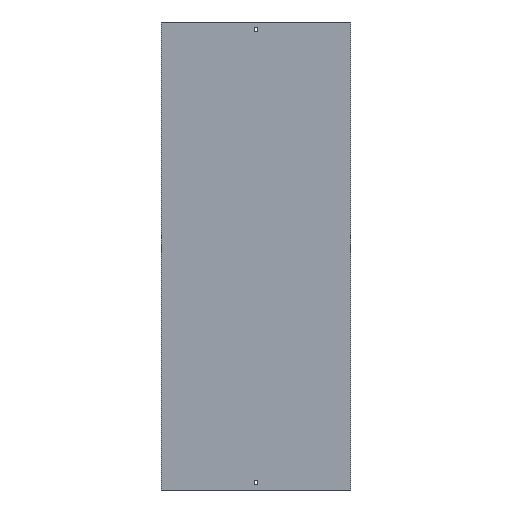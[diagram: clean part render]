
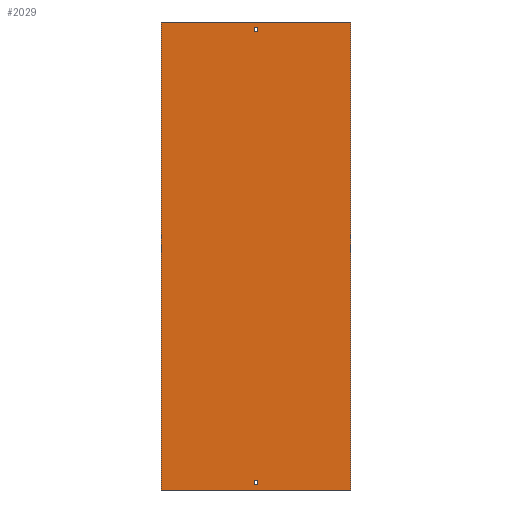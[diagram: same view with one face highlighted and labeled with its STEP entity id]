
A CAD part, front view. The second image highlights one B-rep face of the part: STEP entity #2029.
In plain terms, the highlighted planar face has unit normal (0, -1, 0).
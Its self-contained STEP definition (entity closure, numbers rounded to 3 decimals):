
#22 = CARTESIAN_POINT ( 'NONE',  ( -3.25, 0., -488. ) ) ;
#30 = VERTEX_POINT ( 'NONE', #1536 ) ;
#47 = DIRECTION ( 'NONE',  ( 1., 0., 0. ) ) ;
#49 = CARTESIAN_POINT ( 'NONE',  ( -202., 0., 500. ) ) ;
#53 = DIRECTION ( 'NONE',  ( 0., 0., 1. ) ) ;
#93 = EDGE_CURVE ( 'NONE', #489, #983, #2152, .T. ) ;
#100 = DIRECTION ( 'NONE',  ( -1., 0., 0. ) ) ;
#187 = VERTEX_POINT ( 'NONE', #989 ) ;
#230 = DIRECTION ( 'NONE',  ( 0., 0., -1. ) ) ;
#242 = CARTESIAN_POINT ( 'NONE',  ( -3.25, 0., 488. ) ) ;
#315 = DIRECTION ( 'NONE',  ( 0., 1., 0. ) ) ;
#328 = CARTESIAN_POINT ( 'NONE',  ( -202., 0., 500. ) ) ;
#331 = ORIENTED_EDGE ( 'NONE', *, *, #2268, .T. ) ;
#339 = EDGE_CURVE ( 'NONE', #187, #1683, #1865, .T. ) ;
#342 = AXIS2_PLACEMENT_3D ( 'NONE', #49, #315, #100 ) ;
#364 = CARTESIAN_POINT ( 'NONE',  ( -3.25, 0., 488. ) ) ;
#393 = EDGE_CURVE ( 'NONE', #1574, #568, #1940, .T. ) ;
#452 = CARTESIAN_POINT ( 'NONE',  ( -202., 0., 500. ) ) ;
#453 = CARTESIAN_POINT ( 'NONE',  ( -202., 0., -500. ) ) ;
#471 = VERTEX_POINT ( 'NONE', #2409 ) ;
#489 = VERTEX_POINT ( 'NONE', #737 ) ;
#542 = LINE ( 'NONE', #1391, #778 ) ;
#559 = CARTESIAN_POINT ( 'NONE',  ( 202., 0., -500. ) ) ;
#568 = VERTEX_POINT ( 'NONE', #2040 ) ;
#581 = EDGE_CURVE ( 'NONE', #983, #1782, #542, .T. ) ;
#670 = DIRECTION ( 'NONE',  ( 0., 0., 1. ) ) ;
#737 = CARTESIAN_POINT ( 'NONE',  ( 3.25, 0., 479. ) ) ;
#742 = VECTOR ( 'NONE', #1287, 1000. ) ;
#745 = ORIENTED_EDGE ( 'NONE', *, *, #815, .F. ) ;
#749 = LINE ( 'NONE', #1599, #2607 ) ;
#778 = VECTOR ( 'NONE', #2245, 1000. ) ;
#783 = VECTOR ( 'NONE', #1675, 1000. ) ;
#799 = EDGE_CURVE ( 'NONE', #568, #30, #1301, .T. ) ;
#803 = LINE ( 'NONE', #1612, #2252 ) ;
#815 = EDGE_CURVE ( 'NONE', #1782, #2457, #1543, .T. ) ;
#818 = VECTOR ( 'NONE', #230, 1000. ) ;
#863 = EDGE_CURVE ( 'NONE', #471, #1574, #803, .T. ) ;
#900 = FACE_OUTER_BOUND ( 'NONE', #2445, .T. ) ;
#971 = EDGE_CURVE ( 'NONE', #2457, #489, #749, .T. ) ;
#978 = CARTESIAN_POINT ( 'NONE',  ( -3.25, 0., 479. ) ) ;
#980 = CARTESIAN_POINT ( 'NONE',  ( 3.25, 0., 488. ) ) ;
#983 = VERTEX_POINT ( 'NONE', #980 ) ;
#989 = CARTESIAN_POINT ( 'NONE',  ( 202., 0., 500. ) ) ;
#1025 = VERTEX_POINT ( 'NONE', #452 ) ;
#1102 = CARTESIAN_POINT ( 'NONE',  ( -3.25, 0., -488. ) ) ;
#1111 = ORIENTED_EDGE ( 'NONE', *, *, #1829, .T. ) ;
#1177 = DIRECTION ( 'NONE',  ( 1., 0., 0. ) ) ;
#1287 = DIRECTION ( 'NONE',  ( 0., 0., -1. ) ) ;
#1301 = LINE ( 'NONE', #1786, #1355 ) ;
#1302 = ORIENTED_EDGE ( 'NONE', *, *, #339, .F. ) ;
#1355 = VECTOR ( 'NONE', #47, 1000. ) ;
#1387 = ORIENTED_EDGE ( 'NONE', *, *, #393, .T. ) ;
#1391 = CARTESIAN_POINT ( 'NONE',  ( -3.25, 0., 488. ) ) ;
#1408 = ORIENTED_EDGE ( 'NONE', *, *, #799, .T. ) ;
#1512 = CARTESIAN_POINT ( 'NONE',  ( -202., 0., 500. ) ) ;
#1536 = CARTESIAN_POINT ( 'NONE',  ( 3.25, 0., -479. ) ) ;
#1543 = LINE ( 'NONE', #242, #2293 ) ;
#1574 = VERTEX_POINT ( 'NONE', #1102 ) ;
#1577 = VECTOR ( 'NONE', #53, 1000. ) ;
#1599 = CARTESIAN_POINT ( 'NONE',  ( -3.25, 0., 479. ) ) ;
#1612 = CARTESIAN_POINT ( 'NONE',  ( -3.25, 0., -488. ) ) ;
#1638 = CARTESIAN_POINT ( 'NONE',  ( 202., 0., 500. ) ) ;
#1639 = ORIENTED_EDGE ( 'NONE', *, *, #863, .T. ) ;
#1675 = DIRECTION ( 'NONE',  ( 0., 0., -1. ) ) ;
#1676 = VECTOR ( 'NONE', #2724, 1000. ) ;
#1683 = VERTEX_POINT ( 'NONE', #559 ) ;
#1782 = VERTEX_POINT ( 'NONE', #364 ) ;
#1786 = CARTESIAN_POINT ( 'NONE',  ( -3.25, 0., -479. ) ) ;
#1790 = EDGE_CURVE ( 'NONE', #30, #471, #2084, .T. ) ;
#1829 = EDGE_CURVE ( 'NONE', #2297, #1683, #1862, .T. ) ;
#1854 = LINE ( 'NONE', #328, #1996 ) ;
#1862 = LINE ( 'NONE', #1886, #1676 ) ;
#1865 = LINE ( 'NONE', #1638, #818 ) ;
#1886 = CARTESIAN_POINT ( 'NONE',  ( -202., 0., -500. ) ) ;
#1928 = PLANE ( 'NONE',  #342 ) ;
#1936 = ORIENTED_EDGE ( 'NONE', *, *, #971, .F. ) ;
#1940 = LINE ( 'NONE', #22, #2604 ) ;
#1973 = FACE_BOUND ( 'NONE', #2391, .T. ) ;
#1996 = VECTOR ( 'NONE', #1177, 1000. ) ;
#2029 = ADVANCED_FACE ( 'NONE', ( #900, #2230, #1973 ), #1928, .F. ) ;
#2040 = CARTESIAN_POINT ( 'NONE',  ( -3.25, 0., -479. ) ) ;
#2084 = LINE ( 'NONE', #2326, #783 ) ;
#2148 = EDGE_CURVE ( 'NONE', #1025, #187, #1854, .T. ) ;
#2152 = LINE ( 'NONE', #2615, #1577 ) ;
#2230 = FACE_BOUND ( 'NONE', #2364, .T. ) ;
#2245 = DIRECTION ( 'NONE',  ( -1., 0., 0. ) ) ;
#2252 = VECTOR ( 'NONE', #2461, 1000. ) ;
#2261 = ORIENTED_EDGE ( 'NONE', *, *, #2148, .F. ) ;
#2268 = EDGE_CURVE ( 'NONE', #1025, #2297, #2759, .T. ) ;
#2293 = VECTOR ( 'NONE', #2395, 1000. ) ;
#2297 = VERTEX_POINT ( 'NONE', #453 ) ;
#2326 = CARTESIAN_POINT ( 'NONE',  ( 3.25, 0., -488. ) ) ;
#2364 = EDGE_LOOP ( 'NONE', ( #1936, #745, #2757, #2651 ) ) ;
#2391 = EDGE_LOOP ( 'NONE', ( #1387, #1408, #2676, #1639 ) ) ;
#2395 = DIRECTION ( 'NONE',  ( 0., 0., -1. ) ) ;
#2409 = CARTESIAN_POINT ( 'NONE',  ( 3.25, 0., -488. ) ) ;
#2445 = EDGE_LOOP ( 'NONE', ( #1111, #1302, #2261, #331 ) ) ;
#2449 = DIRECTION ( 'NONE',  ( 1., 0., 0. ) ) ;
#2457 = VERTEX_POINT ( 'NONE', #978 ) ;
#2461 = DIRECTION ( 'NONE',  ( -1., 0., 0. ) ) ;
#2604 = VECTOR ( 'NONE', #670, 1000. ) ;
#2607 = VECTOR ( 'NONE', #2449, 1000. ) ;
#2615 = CARTESIAN_POINT ( 'NONE',  ( 3.25, 0., 488. ) ) ;
#2651 = ORIENTED_EDGE ( 'NONE', *, *, #93, .F. ) ;
#2676 = ORIENTED_EDGE ( 'NONE', *, *, #1790, .T. ) ;
#2724 = DIRECTION ( 'NONE',  ( 1., 0., 0. ) ) ;
#2757 = ORIENTED_EDGE ( 'NONE', *, *, #581, .F. ) ;
#2759 = LINE ( 'NONE', #1512, #742 ) ;
